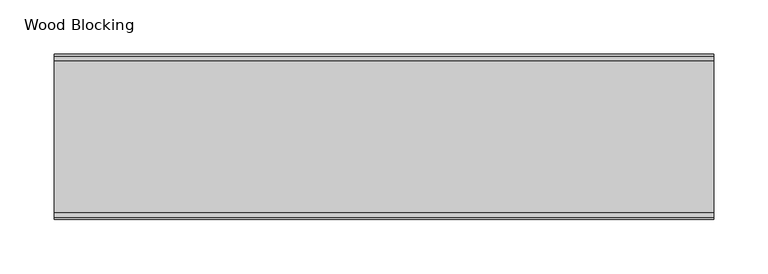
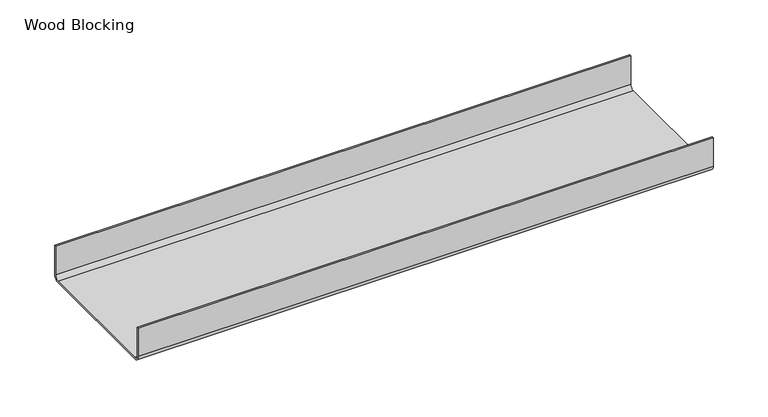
"""IFC4 building model written with IfcOpenShell, lengths in millimetres: proxy geometry, CRAi Generic Model Line Based Metal Framing Track : Wood Blocking."""

from ifc_helpers import new_model, si_unit, point, frame, frame_2d, origin, place, context, project, spatial, polyline, circle_curve, trimmed, segment, composite_curve, outline, extrude, source, transform, mapped, element, save


def wood_blocking_63bdfc83(model_context):
    return source(origin(), model_context, "Body", "SweptSolid", [
        extrude(outline(composite_curve([segment(polyline([(146.05, 0.0), (6.35, 0.0)]), True, "CONTINUOUS"), segment(trimmed(circle_curve(frame_2d((6.35, 6.35)), 6.35), [point((6.35, 0.0))], [point((0.0, 6.35))], False, "CARTESIAN"), True, "CONTINUOUS"), segment(polyline([(0.0, 6.35), (0.0, 38.1), (1.5875, 38.1), (1.5875, 6.35)]), True, "CONTINUOUS"), segment(trimmed(circle_curve(frame_2d((6.35, 6.35)), 4.7625), [point((1.5875, 6.35))], [point((6.35, 1.5875))], True, "CARTESIAN"), True, "CONTINUOUS"), segment(polyline([(6.35, 1.5875), (146.0504713, 1.5875)]), True, "CONTINUOUS"), segment(trimmed(circle_curve(frame_2d((146.05, 6.35)), 4.7625), [point((146.0504713, 1.5875))], [point((150.8125, 6.3495615))], True, "CARTESIAN"), True, "CONTINUOUS"), segment(polyline([(150.8125, 6.3495615), (150.8125, 38.1), (152.4, 38.1), (152.4, 6.35)]), True, "CONTINUOUS"), segment(trimmed(circle_curve(frame_2d((146.05, 6.35)), 6.35), [point((152.4, 6.35))], [point((146.05, 0.0))], False, "CARTESIAN"), True, "CONTINUOUS")], self_intersect=False)), frame((0.0, 0.0, 0.0), z_axis=(1.0, 0.0, 0.0), x_axis=(0.0, 1.0, 0.0)), (0.0, 0.0, 1.0), 606.9104332),
    ])


if __name__ == "__main__":
    model = new_model("IFC4")
    model_context = context("Model", 3, world=origin())
    ifc_project = project(units=[si_unit("LENGTHUNIT", "METRE", prefix="MILLI")], contexts=[model_context])
    site = spatial("IfcSite", under=ifc_project)
    building = spatial("IfcBuilding", under=site)
    placement = place(None, origin())
    wood_blocking_shape = wood_blocking_63bdfc83(model_context)
    element("IfcBuildingElementProxy", 1, Name="CRAi Generic Model Line Based Metal Framing Track : Wood Blocking", ObjectType="CRAi Generic Model Line Based Metal Framing Track : Wood Blocking", at=placement, inside=building, context=model_context, shape_type="MappedRepresentation", body=[
        mapped(wood_blocking_shape, transform((0.0, 0.0, 0.0), x_axis=(1.0, 0.0, 0.0), y_axis=(0.0, 1.0, 0.0), z_axis=(0.0, 0.0, 1.0))),
    ])
    save(model, "model.ifc")
